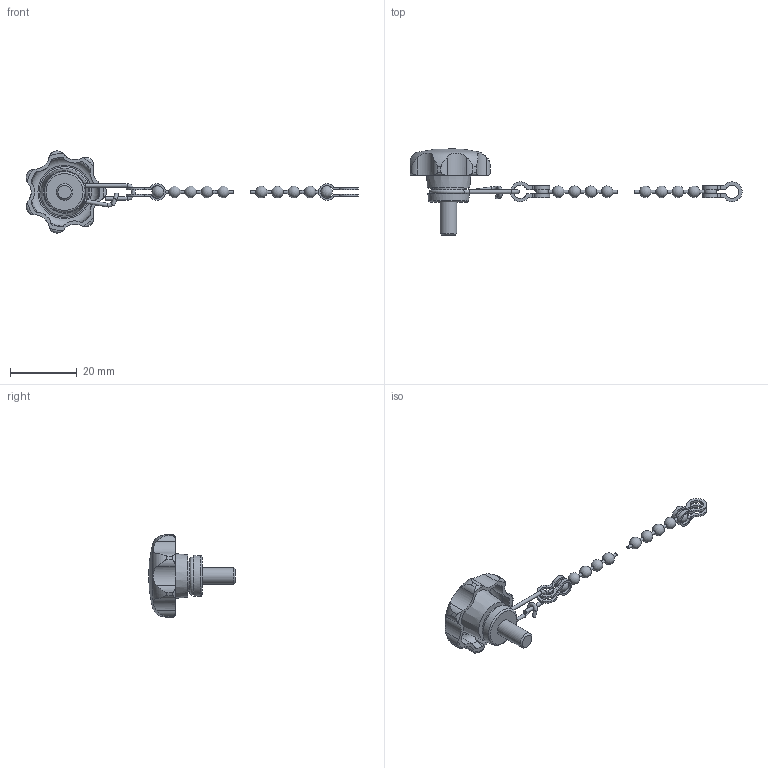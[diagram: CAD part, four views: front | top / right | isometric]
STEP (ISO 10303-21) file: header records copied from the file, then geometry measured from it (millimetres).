
FILE_DESCRIPTION( ( 'STEP AP203' ), '1' );
FILE_NAME( 'C:/Temp/Ganter_Step_05_03_2020/data/2_2/gn_6336_13/gn_6336_13_2/Star knob GN 6336.13-25-M5-10-K.stp', '2020-03-05T12:11:59', ( 'License CC BY-ND 4.0' ), ( 'CADENAS' ), ' ', 'PARTsolutions', ' ' );
FILE_SCHEMA( ( 'CONFIG_CONTROL_DESIGN' ) );
Length unit declared in the file: millimetre
Products named in the file (3): Star knob GN 6336.13-25-M5-10-K; _Star knob GN 6336.13-25-M5-10-K 6; _Star knob GN 111.5-200-14 k2
Assembly tree (2 placements, depth 2):
  Star knob GN 6336.13-25-M5-10-K
    _Star knob GN 6336.13-25-M5-10-K 6
    _Star knob GN 111.5-200-14 k2
Bounding box: 99.5 x 26 x 24.58 mm (x, y, z)
Volume: 3582.5 mm3; surface area: 3340.2 mm2
Topology: 2 solids, 2 shells, 169 faces, 488 edges, 315 vertices
Faces by surface type: cylinder 101, plane 28, torus 18, cone 11, sphere 11
Full cylindrical faces by diameter (mm): 0.9 x10, 1.1 x6, 5 x1, 9.1 x1
Entity records: 6044 total; most frequent: CARTESIAN_POINT 1785, DIRECTION 880, ORIENTED_EDGE 840, EDGE_CURVE 420, AXIS2_PLACEMENT_3D 379, VERTEX_POINT 300, EDGE_LOOP 221, CIRCLE 207
